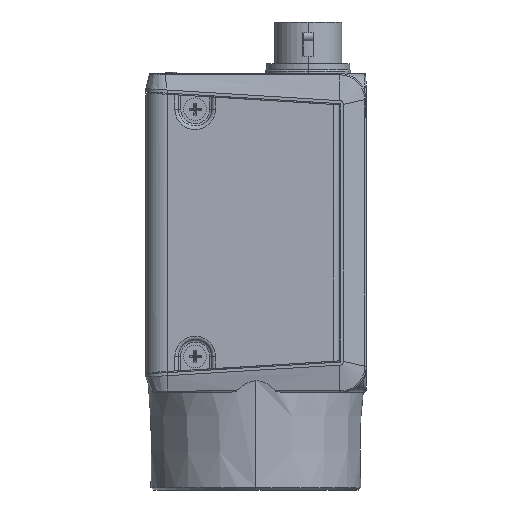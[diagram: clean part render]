
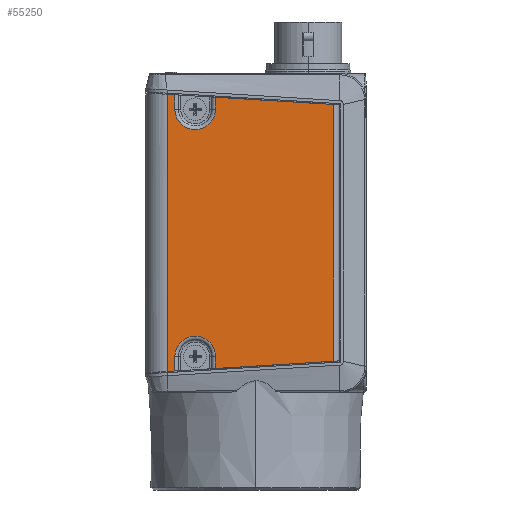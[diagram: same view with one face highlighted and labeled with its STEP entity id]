
A CAD part, left-side view. The second image highlights one B-rep face of the part: STEP entity #55250.
In plain terms, the highlighted planar face has unit normal (-1, 0, 0).
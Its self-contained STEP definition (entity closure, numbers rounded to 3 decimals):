
#8910=CARTESIAN_POINT('',(-14.5,-10.263,
13.575));
#8915=DIRECTION('',(0.,0.,1.));
#8916=VECTOR('',#8915,33.851);
#8917=CARTESIAN_POINT('',(-14.5,-10.263,
13.575));
#8918=LINE('',#8917,#8916);
#9047=CARTESIAN_POINT('',(-14.5,10.67,48.706));
#9246=DIRECTION('',(0.,0.,-1.));
#9247=VECTOR('',#9246,1.579);
#9248=CARTESIAN_POINT('',(-14.5,5.33,48.379));
#9249=LINE('',#9248,#9247);
#9270=CARTESIAN_POINT('',(-14.5,5.33,48.379));
#10192=CARTESIAN_POINT('',(-14.5,8.,14.2));
#10193=DIRECTION('',(-1.,0.,0.));
#10194=DIRECTION('',(0.,-1.,0.));
#10195=AXIS2_PLACEMENT_3D('',#10192,#10193,#10194);
#10200=CARTESIAN_POINT('',(-14.5,8.,14.2));
#10201=DIRECTION('',(-1.,0.,0.));
#10202=DIRECTION('',(0.,-0.999,0.054));
#10203=AXIS2_PLACEMENT_3D('',#10200,#10201,#10202);
#10208=DIRECTION('',(0.,0.998,-0.061));
#10209=VECTOR('',#10208,1.032);
#10210=CARTESIAN_POINT('',(-14.5,10.67,12.294));
#10211=LINE('',#10210,#10209);
#10215=DIRECTION('',(0.,-0.998,-0.061));
#10216=VECTOR('',#10215,1.032);
#10217=CARTESIAN_POINT('',(-14.5,11.7,
48.769));
#10218=LINE('',#10217,#10216);
#10222=CARTESIAN_POINT('',(-14.5,8.,46.8));
#10223=DIRECTION('',(-1.,0.,0.));
#10224=DIRECTION('',(0.,1.,0.));
#10225=AXIS2_PLACEMENT_3D('',#10222,#10223,#10224);
#10230=CARTESIAN_POINT('',(-14.5,8.,46.8));
#10231=DIRECTION('',(-1.,0.,0.));
#10232=DIRECTION('',(0.,0.999,-0.054));
#10233=AXIS2_PLACEMENT_3D('',#10230,#10231,#10232);
#10238=DIRECTION('',(0.,-0.998,-0.061));
#10239=VECTOR('',#10238,15.622);
#10240=CARTESIAN_POINT('',(-14.5,5.33,48.379));
#10241=LINE('',#10240,#10239);
#10245=DIRECTION('',(0.,0.998,-0.061));
#10246=VECTOR('',#10245,15.622);
#10247=CARTESIAN_POINT('',(-14.5,-10.263,
13.575));
#10248=LINE('',#10247,#10246);
#10252=DIRECTION('',(0.,0.,-1.));
#10253=VECTOR('',#10252,1.579);
#10254=CARTESIAN_POINT('',(-14.5,5.33,14.2));
#10255=LINE('',#10254,#10253);
#10334=CARTESIAN_POINT('',(-14.5,5.33,
12.621));
#10485=DIRECTION('',(0.,0.,1.));
#10486=VECTOR('',#10485,1.906);
#10487=CARTESIAN_POINT('',(-14.5,10.67,12.294));
#10488=LINE('',#10487,#10486);
#10509=CARTESIAN_POINT('',(-14.5,10.67,12.294));
#10537=CARTESIAN_POINT('',(-14.5,11.7,
48.769));
#10542=DIRECTION('',(0.,0.,-1.));
#10543=VECTOR('',#10542,36.537);
#10544=CARTESIAN_POINT('',(-14.5,11.7,
48.769));
#10545=LINE('',#10544,#10543);
#10549=CARTESIAN_POINT('',(-14.5,11.7,
12.231));
#16359=DIRECTION('',(0.,0.,1.));
#16360=VECTOR('',#16359,1.906);
#16361=CARTESIAN_POINT('',(-14.5,10.67,46.8));
#16362=LINE('',#16361,#16360);
#41929=VERTEX_POINT('',#10549);
#41932=VERTEX_POINT('',#10537);
#42151=VERTEX_POINT('',#9047);
#42182=VERTEX_POINT('',#9270);
#42183=CARTESIAN_POINT('',(-14.5,5.33,46.8));
#42184=VERTEX_POINT('',#42183);
#42185=CARTESIAN_POINT('',(-14.5,-10.263,
47.425));
#42186=VERTEX_POINT('',#42185);
#42207=VERTEX_POINT('',#8910);
#42240=VERTEX_POINT('',#10334);
#42277=VERTEX_POINT('',#10509);
#42278=CARTESIAN_POINT('',(-14.5,10.67,14.2));
#42279=VERTEX_POINT('',#42278);
#42280=CARTESIAN_POINT('',(-14.5,5.33,14.2));
#42281=VERTEX_POINT('',#42280);
#42282=CARTESIAN_POINT('',(-14.5,5.334,14.345));
#42283=VERTEX_POINT('',#42282);
#42284=CARTESIAN_POINT('',(-14.5,10.67,46.8));
#42285=VERTEX_POINT('',#42284);
#42286=CARTESIAN_POINT('',(-14.5,10.666,46.655));
#42287=VERTEX_POINT('',#42286);
#55219=CARTESIAN_POINT('',(-14.5,14.5,11.7));
#55220=DIRECTION('',(-1.,0.,0.));
#55221=DIRECTION('',(0.,0.,-1.));
#55222=AXIS2_PLACEMENT_3D('',#55219,#55220,#55221);
#55223=PLANE('',#55222);
#55225=ORIENTED_EDGE('',*,*,#55224,.F.);
#55227=ORIENTED_EDGE('',*,*,#55226,.T.);
#55229=ORIENTED_EDGE('',*,*,#55228,.T.);
#55231=ORIENTED_EDGE('',*,*,#55230,.F.);
#55233=ORIENTED_EDGE('',*,*,#55232,.T.);
#55235=ORIENTED_EDGE('',*,*,#55234,.F.);
#55236=ORIENTED_EDGE('',*,*,#53867,.T.);
#55238=ORIENTED_EDGE('',*,*,#55237,.F.);
#55240=ORIENTED_EDGE('',*,*,#55239,.T.);
#55242=ORIENTED_EDGE('',*,*,#55241,.T.);
#55243=ORIENTED_EDGE('',*,*,#54017,.F.);
#55244=ORIENTED_EDGE('',*,*,#54054,.T.);
#55245=ORIENTED_EDGE('',*,*,#53731,.F.);
#55247=ORIENTED_EDGE('',*,*,#55246,.T.);
#55248=EDGE_LOOP('',(#55225,#55227,#55229,#55231,#55233,#55235,#55236,#55238,
#55240,#55242,#55243,#55244,#55245,#55247));
#55249=FACE_OUTER_BOUND('',#55248,.F.);
#55250=ADVANCED_FACE('',(#55249),#55223,.T.);
#10196=CIRCLE('',#10195,2.67);
#10204=CIRCLE('',#10203,2.67);
#10226=CIRCLE('',#10225,2.67);
#10234=CIRCLE('',#10233,2.67);
#53731=EDGE_CURVE('',#42207,#42186,#8918,.T.);
#53867=EDGE_CURVE('',#41932,#42151,#10218,.T.);
#54017=EDGE_CURVE('',#42182,#42184,#9249,.T.);
#54054=EDGE_CURVE('',#42182,#42186,#10241,.T.);
#55224=EDGE_CURVE('',#42281,#42240,#10255,.T.);
#55226=EDGE_CURVE('',#42281,#42283,#10196,.T.);
#55228=EDGE_CURVE('',#42283,#42279,#10204,.T.);
#55230=EDGE_CURVE('',#42277,#42279,#10488,.T.);
#55232=EDGE_CURVE('',#42277,#41929,#10211,.T.);
#55234=EDGE_CURVE('',#41932,#41929,#10545,.T.);
#55237=EDGE_CURVE('',#42285,#42151,#16362,.T.);
#55239=EDGE_CURVE('',#42285,#42287,#10226,.T.);
#55241=EDGE_CURVE('',#42287,#42184,#10234,.T.);
#55246=EDGE_CURVE('',#42207,#42240,#10248,.T.);
